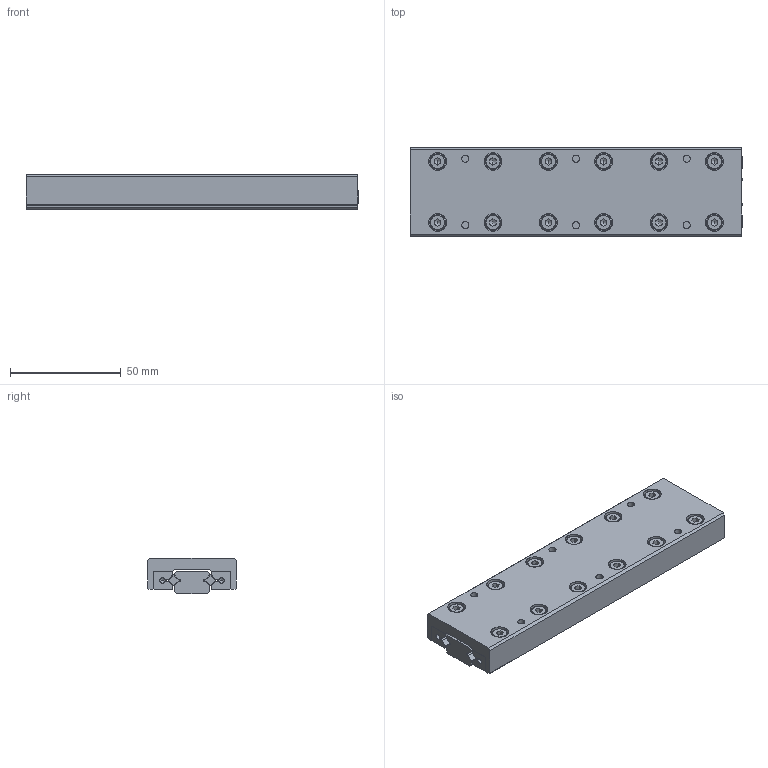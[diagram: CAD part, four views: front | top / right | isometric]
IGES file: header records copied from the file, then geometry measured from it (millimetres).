
Global section: file name: No Iges File Name specified; native system: AutoDesk Inventor R10; preprocessor: AutoDesk Inventor Iges Exporter R10; author: No Author specified; organization: No Organization specified; date: 20101224.112800; units: millimetre
Bounding box: 150 x 40 x 16 mm (x, y, z)
Surface area: 38431.3 mm2 (no closed solid volume)
Topology: 0 solids, 0 shells, 549 faces, 3360 edges, 3328 vertices
Faces by surface type: bspline 549
